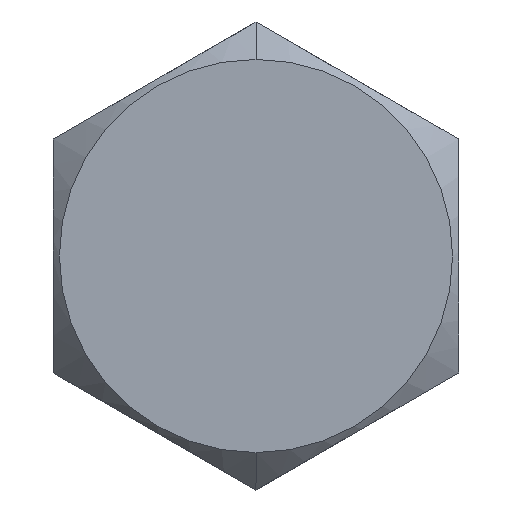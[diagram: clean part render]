
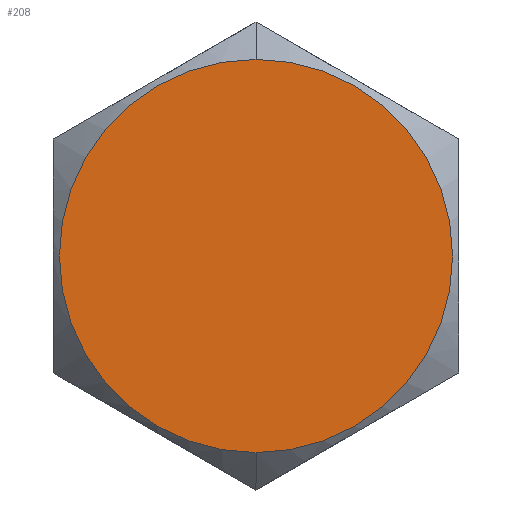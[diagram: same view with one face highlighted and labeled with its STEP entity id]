
A CAD part, left-side view. The second image highlights one B-rep face of the part: STEP entity #208.
In plain terms, the highlighted planar face has unit normal (-1, 0, 0).
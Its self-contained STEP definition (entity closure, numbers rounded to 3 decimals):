
#27 = EDGE_CURVE ( 'NONE', #276, #731, #451, .T. ) ;
#57 = DIRECTION ( 'NONE',  ( 1., 0., 0. ) ) ;
#102 = EDGE_CURVE ( 'NONE', #731, #276, #496, .T. ) ;
#112 = AXIS2_PLACEMENT_3D ( 'NONE', #544, #376, #130 ) ;
#130 = DIRECTION ( 'NONE',  ( 0., 0., -1. ) ) ;
#172 = DIRECTION ( 'NONE',  ( 0., 0., -1. ) ) ;
#181 = DIRECTION ( 'NONE',  ( 0., 0., -1. ) ) ;
#208 = ADVANCED_FACE ( 'NONE', ( #492 ), #437, .F. ) ;
#276 = VERTEX_POINT ( 'NONE', #346 ) ;
#294 = CARTESIAN_POINT ( 'NONE',  ( 0., 0., 0. ) ) ;
#346 = CARTESIAN_POINT ( 'NONE',  ( 0., 0., -6.306 ) ) ;
#376 = DIRECTION ( 'NONE',  ( 1., 0., 0. ) ) ;
#418 = DIRECTION ( 'NONE',  ( 1., 0., 0. ) ) ;
#431 = ORIENTED_EDGE ( 'NONE', *, *, #102, .F. ) ;
#437 = PLANE ( 'NONE',  #112 ) ;
#451 = CIRCLE ( 'NONE', #557, 6.306 ) ;
#464 = ORIENTED_EDGE ( 'NONE', *, *, #27, .F. ) ;
#475 = EDGE_LOOP ( 'NONE', ( #464, #431 ) ) ;
#492 = FACE_OUTER_BOUND ( 'NONE', #475, .T. ) ;
#496 = CIRCLE ( 'NONE', #643, 6.306 ) ;
#544 = CARTESIAN_POINT ( 'NONE',  ( 0., 0., 0. ) ) ;
#557 = AXIS2_PLACEMENT_3D ( 'NONE', #722, #418, #181 ) ;
#643 = AXIS2_PLACEMENT_3D ( 'NONE', #294, #57, #172 ) ;
#696 = CARTESIAN_POINT ( 'NONE',  ( 0., 0., 6.306 ) ) ;
#722 = CARTESIAN_POINT ( 'NONE',  ( 0., 0., 0. ) ) ;
#731 = VERTEX_POINT ( 'NONE', #696 ) ;
